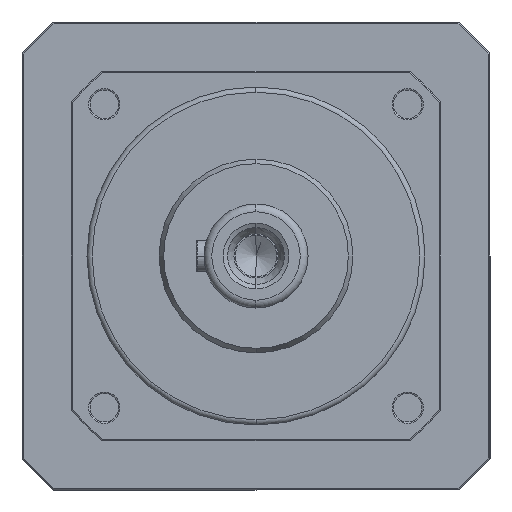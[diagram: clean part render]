
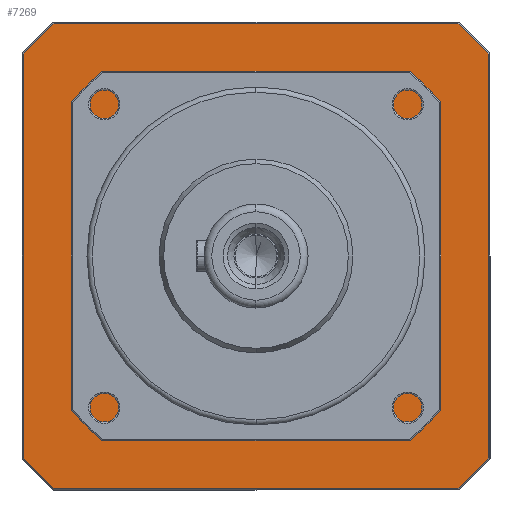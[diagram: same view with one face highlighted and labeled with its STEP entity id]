
A CAD part, left-side view. The second image highlights one B-rep face of the part: STEP entity #7269.
In plain terms, the highlighted planar face has unit normal (-1, 0, 0) as drawn and (0, 0, 1) by its records, which use the part's own axes.
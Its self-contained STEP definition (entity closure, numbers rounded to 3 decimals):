
#73 = CIRCLE ( 'NONE', #5691, 118.5 ) ;
#202 = AXIS2_PLACEMENT_3D ( 'NONE', #4832, #4240, #8372 ) ;
#251 = VECTOR ( 'NONE', #6934, 1000. ) ;
#592 = CIRCLE ( 'NONE', #8589, 63. ) ;
#768 = EDGE_LOOP ( 'NONE', ( #4416, #5275, #7662, #1840, #5508, #8442, #4386, #8440 ) ) ;
#962 = CARTESIAN_POINT ( 'NONE',  ( -89.5, 77.666, 53.5 ) ) ;
#966 = AXIS2_PLACEMENT_3D ( 'NONE', #1128, #5348, #5409 ) ;
#1128 = CARTESIAN_POINT ( 'NONE',  ( 0., 0., 53.5 ) ) ;
#1137 = LINE ( 'NONE', #5437, #251 ) ;
#1244 = DIRECTION ( 'NONE',  ( 0., 0., 1. ) ) ;
#1734 = VECTOR ( 'NONE', #7340, 1000. ) ;
#1789 = CARTESIAN_POINT ( 'NONE',  ( -77.666, 89.5, 53.5 ) ) ;
#1838 = CIRCLE ( 'NONE', #3462, 118.5 ) ;
#1840 = ORIENTED_EDGE ( 'NONE', *, *, #5247, .T. ) ;
#1873 = EDGE_CURVE ( 'NONE', #8083, #3503, #7210, .T. ) ;
#2053 = AXIS2_PLACEMENT_3D ( 'NONE', #3758, #2417, #6661 ) ;
#2128 = VERTEX_POINT ( 'NONE', #4505 ) ;
#2210 = CARTESIAN_POINT ( 'NONE',  ( 0., 0., 53.5 ) ) ;
#2241 = DIRECTION ( 'NONE',  ( 1., 0., 0. ) ) ;
#2254 = CIRCLE ( 'NONE', #2512, 118.5 ) ;
#2417 = DIRECTION ( 'NONE',  ( 0., 0., 1. ) ) ;
#2512 = AXIS2_PLACEMENT_3D ( 'NONE', #6432, #7200, #2241 ) ;
#2567 = EDGE_CURVE ( 'NONE', #5284, #7238, #3249, .T. ) ;
#2636 = DIRECTION ( 'NONE',  ( 1., 0., 0. ) ) ;
#2758 = CARTESIAN_POINT ( 'NONE',  ( 77.852, -89.5, 53.5 ) ) ;
#2794 = VERTEX_POINT ( 'NONE', #4761 ) ;
#3091 = EDGE_CURVE ( 'NONE', #8857, #5284, #2254, .T. ) ;
#3123 = EDGE_CURVE ( 'NONE', #3315, #8419, #592, .T. ) ;
#3137 = FACE_BOUND ( 'NONE', #4055, .T. ) ;
#3249 = LINE ( 'NONE', #5007, #4228 ) ;
#3315 = VERTEX_POINT ( 'NONE', #4605 ) ;
#3336 = DIRECTION ( 'NONE',  ( 1., 0., 0. ) ) ;
#3462 = AXIS2_PLACEMENT_3D ( 'NONE', #6040, #1244, #2636 ) ;
#3503 = VERTEX_POINT ( 'NONE', #5583 ) ;
#3758 = CARTESIAN_POINT ( 'NONE',  ( 0., 0., 53.5 ) ) ;
#3819 = VECTOR ( 'NONE', #3336, 1000. ) ;
#3900 = CIRCLE ( 'NONE', #202, 63. ) ;
#3912 = PLANE ( 'NONE',  #966 ) ;
#4055 = EDGE_LOOP ( 'NONE', ( #4204, #4599 ) ) ;
#4204 = ORIENTED_EDGE ( 'NONE', *, *, #8233, .T. ) ;
#4228 = VECTOR ( 'NONE', #6481, 1000. ) ;
#4240 = DIRECTION ( 'NONE',  ( 0., 0., -1. ) ) ;
#4314 = DIRECTION ( 'NONE',  ( 1., 0., 0. ) ) ;
#4371 = DIRECTION ( 'NONE',  ( 1., 0., 0. ) ) ;
#4386 = ORIENTED_EDGE ( 'NONE', *, *, #2567, .T. ) ;
#4416 = ORIENTED_EDGE ( 'NONE', *, *, #1873, .T. ) ;
#4425 = VERTEX_POINT ( 'NONE', #5642 ) ;
#4505 = CARTESIAN_POINT ( 'NONE',  ( 89.5, 77.666, 53.5 ) ) ;
#4599 = ORIENTED_EDGE ( 'NONE', *, *, #3123, .T. ) ;
#4605 = CARTESIAN_POINT ( 'NONE',  ( -63., 0., 53.5 ) ) ;
#4761 = CARTESIAN_POINT ( 'NONE',  ( 89.5, -77.666, 53.5 ) ) ;
#4832 = CARTESIAN_POINT ( 'NONE',  ( 0., 0., 53.5 ) ) ;
#4965 = DIRECTION ( 'NONE',  ( 0., 0., -1. ) ) ;
#4992 = CARTESIAN_POINT ( 'NONE',  ( 0., 0., 53.5 ) ) ;
#5007 = CARTESIAN_POINT ( 'NONE',  ( -89.5, -77.852, 53.5 ) ) ;
#5247 = EDGE_CURVE ( 'NONE', #2128, #4425, #73, .T. ) ;
#5275 = ORIENTED_EDGE ( 'NONE', *, *, #5719, .T. ) ;
#5284 = VERTEX_POINT ( 'NONE', #962 ) ;
#5348 = DIRECTION ( 'NONE',  ( 0., 0., 1. ) ) ;
#5409 = DIRECTION ( 'NONE',  ( 1., 0., 0. ) ) ;
#5437 = CARTESIAN_POINT ( 'NONE',  ( -77.852, 89.5, 53.5 ) ) ;
#5508 = ORIENTED_EDGE ( 'NONE', *, *, #7341, .T. ) ;
#5583 = CARTESIAN_POINT ( 'NONE',  ( 77.666, -89.5, 53.5 ) ) ;
#5642 = CARTESIAN_POINT ( 'NONE',  ( 77.666, 89.5, 53.5 ) ) ;
#5680 = CIRCLE ( 'NONE', #2053, 118.5 ) ;
#5691 = AXIS2_PLACEMENT_3D ( 'NONE', #4992, #8532, #4371 ) ;
#5719 = EDGE_CURVE ( 'NONE', #3503, #2794, #5680, .T. ) ;
#5795 = EDGE_CURVE ( 'NONE', #2794, #2128, #6768, .T. ) ;
#6040 = CARTESIAN_POINT ( 'NONE',  ( 0., 0., 53.5 ) ) ;
#6432 = CARTESIAN_POINT ( 'NONE',  ( 0., 0., 53.5 ) ) ;
#6439 = EDGE_CURVE ( 'NONE', #7238, #8083, #1838, .T. ) ;
#6481 = DIRECTION ( 'NONE',  ( 0., -1., 0. ) ) ;
#6639 = CARTESIAN_POINT ( 'NONE',  ( 89.5, 77.852, 53.5 ) ) ;
#6661 = DIRECTION ( 'NONE',  ( 1., 0., 0. ) ) ;
#6725 = CARTESIAN_POINT ( 'NONE',  ( -89.5, -77.666, 53.5 ) ) ;
#6768 = LINE ( 'NONE', #6639, #1734 ) ;
#6934 = DIRECTION ( 'NONE',  ( -1., 0., 0. ) ) ;
#7076 = FACE_OUTER_BOUND ( 'NONE', #768, .T. ) ;
#7200 = DIRECTION ( 'NONE',  ( 0., 0., 1. ) ) ;
#7210 = LINE ( 'NONE', #2758, #3819 ) ;
#7238 = VERTEX_POINT ( 'NONE', #6725 ) ;
#7269 = ADVANCED_FACE ( 'NONE', ( #7076, #3137 ), #3912, .T. ) ;
#7340 = DIRECTION ( 'NONE',  ( 0., 1., 0. ) ) ;
#7341 = EDGE_CURVE ( 'NONE', #4425, #8857, #1137, .T. ) ;
#7662 = ORIENTED_EDGE ( 'NONE', *, *, #5795, .T. ) ;
#8083 = VERTEX_POINT ( 'NONE', #8659 ) ;
#8233 = EDGE_CURVE ( 'NONE', #8419, #3315, #3900, .T. ) ;
#8372 = DIRECTION ( 'NONE',  ( 1., 0., 0. ) ) ;
#8419 = VERTEX_POINT ( 'NONE', #9029 ) ;
#8440 = ORIENTED_EDGE ( 'NONE', *, *, #6439, .T. ) ;
#8442 = ORIENTED_EDGE ( 'NONE', *, *, #3091, .T. ) ;
#8532 = DIRECTION ( 'NONE',  ( 0., 0., 1. ) ) ;
#8589 = AXIS2_PLACEMENT_3D ( 'NONE', #2210, #4965, #4314 ) ;
#8659 = CARTESIAN_POINT ( 'NONE',  ( -77.666, -89.5, 53.5 ) ) ;
#8857 = VERTEX_POINT ( 'NONE', #1789 ) ;
#9029 = CARTESIAN_POINT ( 'NONE',  ( 63., 0., 53.5 ) ) ;
